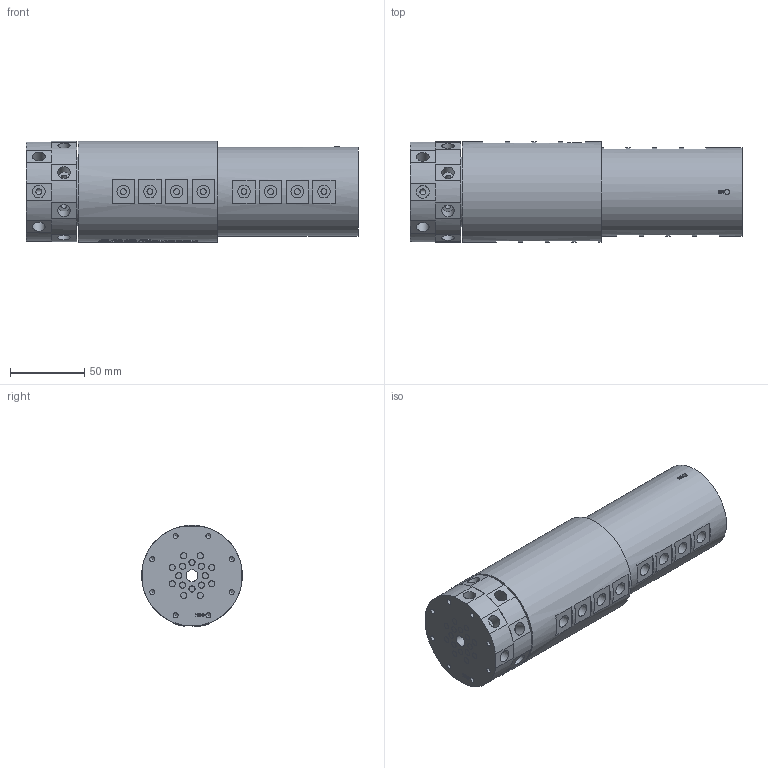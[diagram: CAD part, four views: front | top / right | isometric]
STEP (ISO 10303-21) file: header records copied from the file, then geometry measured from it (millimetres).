
FILE_DESCRIPTION(/* description */ (''),/* implementation_level */ '2;1');
FILE_NAME(/* name */ 'HQ1601.stp',/* time_stamp */ '2025-02-10T13:53:02+08:00',/* author */ (''),/* organization */ (''),/* preprocessor_version */ 'ST-DEVELOPER v16.7',/* originating_system */ 'SIEMENS PLM Software NX 12.0',/* authorisation */ '');
FILE_SCHEMA (('AUTOMOTIVE_DESIGN { 1 0 10303 214 3 1 1 1 }'));
Products named in the file (1): HX051AD4EB6Ag1bn
Bounding box: 224.2 x 68 x 68.45 mm (x, y, z)
Volume: 691861.9 mm3; surface area: 83002 mm2
Topology: 1 solids, 1 shells, 942 faces, 2332 edges, 1611 vertices
Faces by surface type: plane 563, cylinder 186, extrusion 121, bspline 59, cone 13
Full cylindrical faces by diameter (mm): 1.5 x2, 3.4 x14, 4 x48, 4.1 x16, 4.2 x16, 8 x1, 8.5 x32, 23.2 x1, 25 x1, 42 x1, 47 x1, 60 x1, 68 x2
Entity records: 50313 total; most frequent: CARTESIAN_POINT 30720, ORIENTED_EDGE 4046, DIRECTION 3273, EDGE_CURVE 2023, VERTEX_POINT 1499, EDGE_LOOP 1342, AXIS2_PLACEMENT_3D 1287, B_SPLINE_CURVE_WITH_KNOTS 1039
